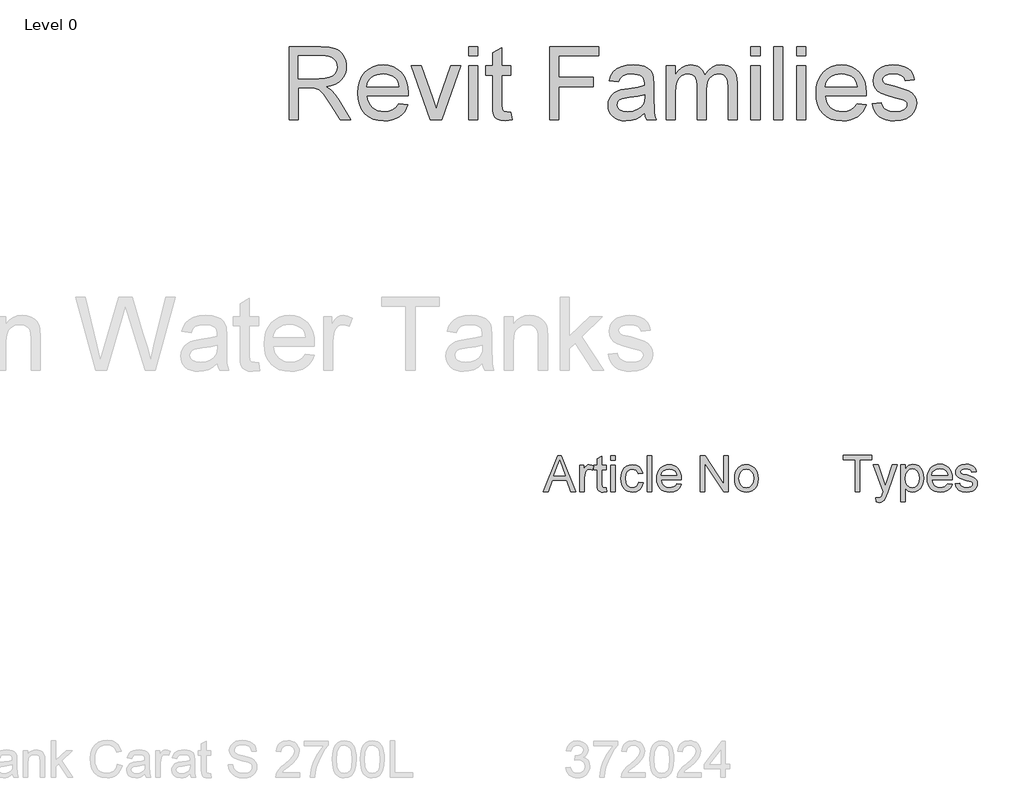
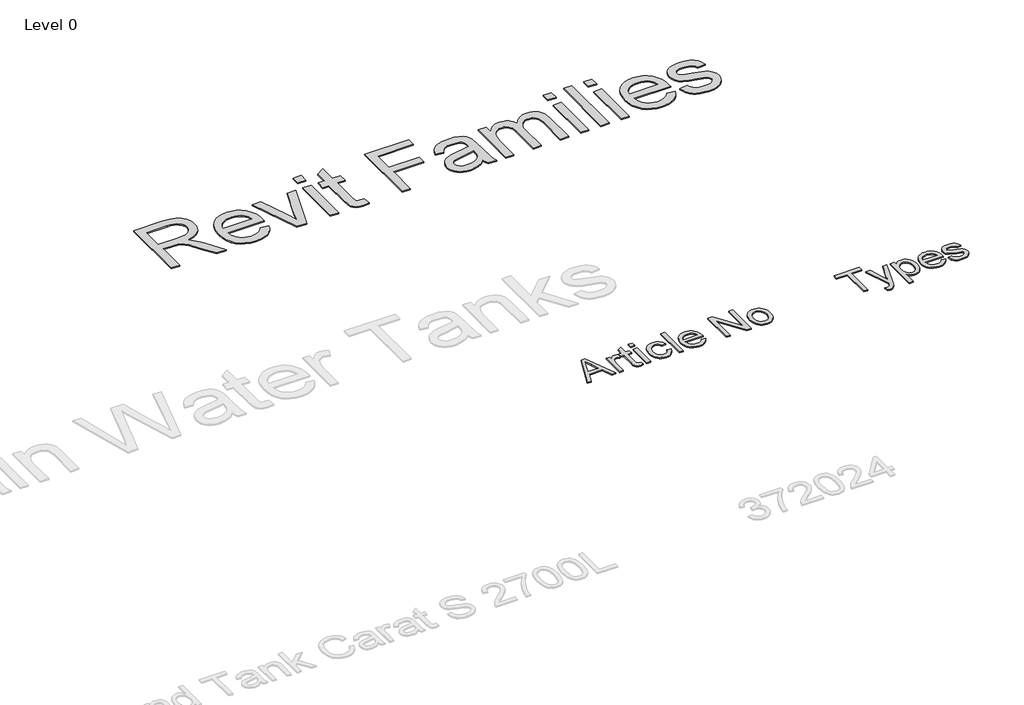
# One storey, part 20 of 20: 3 proxies.
"""IFC4 building model written with IfcOpenShell, lengths in millimetres."""

from ifc_helpers import new_model, si_unit, origin, origin_with_axes, place, context, project, spatial, polyline, outline, extrude, element, save

model = new_model("IFC4")

# Units and contexts
model_context = context("Model", 3, world=origin())
ifc_project = project(units=[si_unit("LENGTHUNIT", "METRE", prefix="MILLI")], contexts=[model_context])

# Site, building, storey
site = spatial("IfcSite", under=ifc_project)
building = spatial("IfcBuilding", under=site)
storey = spatial("IfcBuildingStorey", under=building, Name="Level 0", Elevation=0.0)

# Proxies
placement = place(None, origin())
element("IfcBuildingElementProxy", 1, Name="300mm Arial", ObjectType="300mm Arial", at=placement, inside=storey, context=model_context, shape_type="SweptSolid", body=[
    extrude(outline(polyline([(-3961.8157412, 11653.8274553), (-3961.8157412, 11917.5252695), (-4060.7024215, 11917.5252695), (-4060.7024215, 11955.1963858), (-3825.2579445, 11955.1963858), (-3825.2579445, 11917.5252695), (-3924.1446249, 11917.5252695), (-3924.1446249, 11653.8274553), (-3961.8157412, 11653.8274553)])), origin_with_axes(), (0.0, 0.0, 1.0), 10.0),
    extrude(outline(polyline([(-3787.5868282, 11569.0674436), (-3792.2957178, 11605.3406084), (-3773.165854, 11602.0296704), (-3755.2867891, 11606.186737), (-3744.3239056, 11617.7750198), (-3734.0232097, 11645.5133222), (-3731.0801538, 11654.6367957), (-3811.1312759, 11875.1452636), (-3771.4000205, 11875.1452636), (-3728.9464382, 11752.2726772), (-3714.157582, 11703.1236427), (-3699.3687258, 11746.5337181), (-3655.7379212, 11875.1452636), (-3616.3009713, 11875.1452636), (-3693.3354611, 11648.5299546), (-3713.3482416, 11599.38092), (-3723.5937552, 11583.690753), (-3735.2004321, 11572.81984), (-3748.6833073, 11566.4738756), (-3764.5574153, 11564.3585541), (-3787.5868282, 11569.0674436)])), origin_with_axes(), (0.0, 0.0, 1.0), 10.0),
    extrude(outline(polyline([(-3585.1045781, 11569.0674436), (-3585.1045781, 11875.1452636), (-3547.4334618, 11875.1452636), (-3547.4334618, 11838.2099113), (-3535.1462032, 11856.4292671), (-3521.3874165, 11869.4430927), (-3505.3477615, 11877.2513881), (-3486.2178978, 11879.8541532), (-3460.7420696, 11876.2121214), (-3438.4668148, 11865.2860262), (-3420.3302325, 11847.738055), (-3407.2704216, 11824.2303955), (-3399.3793528, 11796.473699), (-3396.7489966, 11766.1786167), (-3399.7196437, 11733.9613509), (-3408.631585, 11705.1469937), (-3423.199712, 11681.1978758), (-3443.1389162, 11663.5763282), (-3466.3614671, 11652.7330064), (-3490.7796345, 11649.1185658), (-3508.0976795, 11651.5373899), (-3523.5579203, 11658.7938623), (-3536.7924751, 11669.7475487), (-3547.4334618, 11683.2580149), (-3547.4334618, 11569.0674436), (-3585.1045781, 11569.0674436)]), holes=[polyline([(-3547.4334618, 11762.7205259), (-3543.3591687, 11728.9489587), (-3531.1362894, 11705.3309347), (-3513.1008746, 11691.4249952), (-3491.5889749, 11686.7896821), (-3469.7275874, 11691.5905421), (-3451.2323201, 11705.9931223), (-3438.6231647, 11730.475669), (-3434.4201129, 11765.5164291), (-3438.5219971, 11799.1040552), (-3450.8276499, 11823.0531731), (-3468.8354735, 11837.4005709), (-3490.0438705, 11842.1830369), (-3511.335041, 11837.0970683), (-3530.0326434, 11821.8391625), (-3543.0832572, 11796.8875662), (-3547.4334618, 11762.7205259)])]), origin_with_axes(), (0.0, 0.0, 1.0), 10.0),
    extrude(outline(polyline([(-3199.4170944, 11719.7519089), (-3162.481742, 11715.0430193), (-3175.7898732, 11687.2127464), (-3197.0258614, 11666.4090196), (-3225.71146, 11653.4411792), (-3261.3684223, 11649.1185658), (-3284.7427246, 11650.9832677), (-3305.5694441, 11656.5773732), (-3323.8485807, 11665.9008826), (-3339.5801345, 11678.9537956), (-3352.2306766, 11695.3728289), (-3361.2667781, 11714.794699), (-3366.688439, 11737.2194059), (-3368.4956593, 11762.6469495), (-3366.6700449, 11788.9367166), (-3361.1932017, 11812.1086838), (-3352.0651297, 11832.162851), (-3339.2858289, 11849.0992184), (-3323.5956618, 11862.5545023), (-3305.734991, 11872.1654195), (-3285.7038163, 11877.9319697), (-3263.5021379, 11879.8541532), (-3242.0155301, 11877.9365683), (-3222.584463, 11872.1838136), (-3205.2089365, 11862.5958891), (-3189.8889507, 11849.1727948), (-3177.3832621, 11832.2732156), (-3168.4506274, 11812.2558366), (-3163.0910466, 11789.1206576), (-3161.3045197, 11762.8676787), (-3161.5252489, 11752.7141356), (-3330.824543, 11752.7141356), (-3324.3038347, 11724.5159807), (-3309.1562935, 11703.7858303), (-3287.294906, 11691.0387191), (-3260.6326584, 11686.7896821), (-3240.5830896, 11688.7578508), (-3223.697306, 11694.6623568), (-3209.9753076, 11704.8710822), (-3199.4170944, 11719.7519089)]), holes=[polyline([(-3330.824543, 11790.3852519), (-3198.975636, 11790.3852519), (-3204.0708016, 11810.2876679), (-3214.0587978, 11824.5247011), (-3236.0213529, 11837.7684529), (-3263.6492907, 11842.1830369), (-3289.0423454, 11838.6605668), (-3310.0392103, 11828.0931565), (-3324.6349285, 11811.6212401), (-3330.824543, 11790.3852519)])]), origin_with_axes(), (0.0, 0.0, 1.0), 10.0),
    extrude(outline(polyline([(-3137.760072, 11719.7519089), (-3100.0889557, 11724.4607984), (-3094.1476614, 11708.347567), (-3082.6513491, 11696.5017668), (-3065.5264422, 11689.2177033), (-3042.6993644, 11686.7896821), (-3020.1481981, 11689.0153682), (-3004.2924841, 11695.6924264), (-2994.9114932, 11705.3677229), (-2991.7844963, 11716.5881237), (-2994.9298873, 11726.1898438), (-3004.3660605, 11733.5106955), (-3043.1408228, 11744.2528497), (-3099.8682265, 11762.6837377), (-3114.2248213, 11771.9451669), (-3124.6266847, 11784.2048344), (-3130.945058, 11798.6809909), (-3133.0511824, 11814.5918872), (-3131.3589252, 11829.1876054), (-3126.2821537, 11842.6612835), (-3118.2807203, 11854.4794926), (-3107.8144776, 11864.1088038), (-3083.8653597, 11875.2556282), (-3051.4549559, 11879.8541532), (-3026.9356209, 11878.0055461), (-3005.6168593, 11872.4597251), (-2988.4735583, 11863.7593159), (-2976.4806053, 11852.4469445), (-2968.5343542, 11837.6856795), (-2963.531159, 11818.6385892), (-3001.2022754, 11813.9296996), (-3005.9571501, 11825.7846969), (-3015.3657322, 11834.7150324), (-3029.5199919, 11840.3160357), (-3048.5118999, 11842.1830369), (-3070.1433612, 11840.3988092), (-3084.5643355, 11835.0461262), (-3092.6761335, 11827.3206043), (-3095.3800661, 11818.41786), (-3090.8919058, 11807.4549765), (-3076.8388136, 11799.1408434), (-3044.3916216, 11791.1210159), (-2989.0989577, 11773.3891038), (-2974.4940425, 11764.9094238), (-2963.4207944, 11753.3027468), (-2956.4402336, 11738.5322847), (-2954.11338, 11720.5612493), (-2956.8449038, 11701.9832085), (-2965.0394752, 11684.5088137), (-2978.3843946, 11669.5084254), (-2996.5669622, 11658.3524039), (-3018.5295173, 11651.4270253), (-3043.2143992, 11649.1185658), (-3081.1982152, 11653.5699379), (-3108.9181235, 11666.9240544), (-3127.4225879, 11689.0337623), (-3137.760072, 11719.7519089)])), origin_with_axes(), (0.0, 0.0, 1.0), 10.0),
])
element("IfcBuildingElementProxy", 2, Name="300mm Arial", ObjectType="300mm Arial", at=placement, inside=storey, context=model_context, shape_type="SweptSolid", body=[
    extrude(outline(polyline([(-6532.2115467, 11653.8274553), (-6414.3028928, 11949.2120707), (-6382.8605852, 11949.2120707), (-6264.9519313, 11653.8274553), (-6303.9663544, 11653.8274553), (-6337.7884698, 11746.1351476), (-6459.4471236, 11746.1351476), (-6493.1971236, 11653.8274553), (-6532.2115467, 11653.8274553)]), holes=[polyline([(-6445.8894313, 11783.0582246), (-6351.2740467, 11783.0582246), (-6377.8846236, 11855.6784169), (-6398.581739, 11912.2889938), (-6416.9711621, 11862.0245707), (-6445.8894313, 11783.0582246)])]), origin_with_axes(), (0.0, 0.0, 1.0), 10.0),
    extrude(outline(polyline([(-6230.1202005, 11653.8274553), (-6230.1202005, 11870.7505323), (-6197.8125082, 11870.7505323), (-6197.8125082, 11838.6591861), (-6185.8774121, 11857.2649553), (-6174.8798159, 11868.2264938), (-6163.8461621, 11873.5810611), (-6151.8028928, 11875.3659169), (-6133.4134698, 11872.5173592), (-6114.7355852, 11863.9716861), (-6127.0673159, 11830.8707246), (-6140.0480852, 11836.5498111), (-6153.0288544, 11838.44284), (-6164.0534938, 11836.6219265), (-6173.9062582, 11831.1591861), (-6181.8659938, 11822.4692823), (-6187.2115467, 11810.9668784), (-6191.7007294, 11790.3418784), (-6193.1971236, 11767.8418784), (-6193.1971236, 11653.8274553), (-6230.1202005, 11653.8274553)])), origin_with_axes(), (0.0, 0.0, 1.0), 10.0),
    extrude(outline(polyline([(-6013.1971236, 11684.6207246), (-6008.581739, 11652.7457246), (-6036.2019313, 11649.2120707), (-6053.9242871, 11650.7445226), (-6067.1394313, 11655.3418784), (-6076.4783736, 11662.427215), (-6082.5721236, 11671.4236092), (-6085.925489, 11686.8743303), (-6087.0432775, 11713.3226476), (-6087.0432775, 11833.8274553), (-6114.7355852, 11833.8274553), (-6114.7355852, 11870.7505323), (-6087.0432775, 11870.7505323), (-6087.0432775, 11923.4668784), (-6050.1202005, 11945.1736092), (-6050.1202005, 11870.7505323), (-6013.1971236, 11870.7505323), (-6013.1971236, 11833.8274553), (-6050.1202005, 11833.8274553), (-6050.1202005, 11714.4043784), (-6048.1730852, 11695.3659169), (-6041.862989, 11688.6231284), (-6029.2788544, 11686.1351476), (-6013.1971236, 11684.6207246)])), origin_with_axes(), (0.0, 0.0, 1.0), 10.0),
    extrude(outline(polyline([(-5976.2740467, 11912.2889938), (-5976.2740467, 11949.2120707), (-5939.3509698, 11949.2120707), (-5939.3509698, 11912.2889938), (-5976.2740467, 11912.2889938)])), origin_with_axes(), (0.0, 0.0, 1.0), 10.0),
    extrude(outline(polyline([(-5976.2740467, 11653.8274553), (-5976.2740467, 11870.7505323), (-5939.3509698, 11870.7505323), (-5939.3509698, 11653.8274553), (-5976.2740467, 11653.8274553)])), origin_with_axes(), (0.0, 0.0, 1.0), 10.0),
    extrude(outline(polyline([(-5745.5048159, 11732.2889938), (-5708.581739, 11727.6736092), (-5718.8762102, 11694.8340659), (-5738.2211621, 11670.0173592), (-5764.7956813, 11654.4133928), (-5796.7788544, 11649.2120707), (-5817.4872378, 11651.0262234), (-5836.0546957, 11656.4686813), (-5852.4812282, 11665.5394445), (-5866.7668352, 11678.238513), (-5878.3300864, 11694.3270046), (-5886.5895515, 11713.5660371), (-5891.5452306, 11735.9556104), (-5893.1971236, 11761.4957246), (-5890.3756092, 11794.3532967), (-5881.9110659, 11822.8298592), (-5867.6682775, 11845.8256525), (-5847.5120275, 11862.2409169), (-5823.3984457, 11872.0846669), (-5797.2836621, 11875.3659169), (-5766.0847438, 11870.8587053), (-5741.1418352, 11857.3370707), (-5723.2482053, 11835.5221669), (-5713.1971236, 11806.1351476), (-5750.1202005, 11801.519763), (-5756.8179169, 11817.6285371), (-5767.2476044, 11829.176013), (-5780.83234, 11836.1261332), (-5796.9952005, 11838.44284), (-5820.8563784, 11833.8815419), (-5839.7956813, 11820.1976476), (-5852.1544553, 11796.6519746), (-5856.2740467, 11762.50534), (-5852.2445996, 11727.8989698), (-5840.1562582, 11704.2721669), (-5821.5595034, 11690.6694025), (-5798.0048159, 11686.1351476), (-5778.8852246, 11688.9656765), (-5763.2091428, 11697.457263), (-5751.8058977, 11711.8262534), (-5745.5048159, 11732.2889938)])), origin_with_axes(), (0.0, 0.0, 1.0), 10.0),
    extrude(outline(polyline([(-5676.2740467, 11653.8274553), (-5676.2740467, 11949.2120707), (-5639.3509698, 11949.2120707), (-5639.3509698, 11653.8274553), (-5676.2740467, 11653.8274553)])), origin_with_axes(), (0.0, 0.0, 1.0), 10.0),
    extrude(outline(polyline([(-5432.0913544, 11718.44284), (-5395.8894313, 11713.8274553), (-5408.9333015, 11686.5498111), (-5429.7476044, 11666.1591861), (-5457.86359, 11653.4488496), (-5492.8125082, 11649.2120707), (-5515.7226645, 11651.039745), (-5536.1358255, 11656.5227678), (-5554.0519914, 11665.6611392), (-5569.4711621, 11678.4548592), (-5581.870501, 11694.547858), (-5590.7271717, 11713.5840659), (-5596.0411741, 11735.563483), (-5597.8125082, 11760.4861092), (-5596.0231453, 11786.2538375), (-5590.6550563, 11808.9656765), (-5581.7082414, 11828.621626), (-5569.1827005, 11845.2216861), (-5553.8040948, 11858.4097871), (-5536.2980852, 11867.8298592), (-5516.6646717, 11873.4819025), (-5494.9038544, 11875.3659169), (-5473.8439085, 11873.4864097), (-5454.7986861, 11867.847888), (-5437.7681873, 11858.450352), (-5422.7524121, 11845.2938015), (-5410.4950503, 11828.7297991), (-5401.7397919, 11809.1099073), (-5396.4866368, 11786.434126), (-5394.7355852, 11760.7024553), (-5394.9519313, 11750.7505323), (-5560.8894313, 11750.7505323), (-5554.4982053, 11723.1123111), (-5539.6514505, 11702.7938015), (-5518.2241669, 11690.2998111), (-5492.0913544, 11686.1351476), (-5472.4399121, 11688.0642342), (-5455.8894313, 11693.8514938), (-5442.4399121, 11703.8575034), (-5432.0913544, 11718.44284)]), holes=[polyline([(-5560.8894313, 11787.6736092), (-5431.6586621, 11787.6736092), (-5436.6526525, 11807.1808207), (-5446.4423159, 11821.1351476), (-5467.9687582, 11834.1159169), (-5495.0480852, 11838.44284), (-5519.9369073, 11834.9903159), (-5540.5168352, 11824.6327438), (-5554.8227246, 11808.4879121), (-5560.8894313, 11787.6736092)])]), origin_with_axes(), (0.0, 0.0, 1.0), 10.0),
    extrude(outline(polyline([(-5237.8125082, 11653.8274553), (-5237.8125082, 11949.2120707), (-5198.2932775, 11949.2120707), (-5043.9663544, 11715.1976476), (-5043.9663544, 11949.2120707), (-5007.0432775, 11949.2120707), (-5007.0432775, 11653.8274553), (-5046.5625082, 11653.8274553), (-5200.8894313, 11887.9139938), (-5200.8894313, 11653.8274553), (-5237.8125082, 11653.8274553)])), origin_with_axes(), (0.0, 0.0, 1.0), 10.0),
    extrude(outline(polyline([(-4956.2740467, 11762.2889938), (-4954.277352, 11790.3824433), (-4948.2872678, 11814.5906765), (-4938.3037943, 11834.9136933), (-4924.3269313, 11851.3514938), (-4910.2554169, 11861.8578039), (-4894.7235659, 11869.3623111), (-4877.7313784, 11873.8650154), (-4859.2788544, 11875.3659169), (-4838.9085118, 11873.5382426), (-4820.4897919, 11868.0552198), (-4804.0226945, 11858.9168484), (-4789.5072198, 11846.1231284), (-4777.6600142, 11830.1067522), (-4769.1977246, 11811.3004121), (-4764.1203508, 11789.704108), (-4762.4278928, 11765.31784), (-4765.4206813, 11728.0161573), (-4774.3990467, 11699.6207246), (-4789.1015707, 11678.3557005), (-4809.2668352, 11662.4452438), (-4833.2181573, 11652.520364), (-4859.2788544, 11649.2120707), (-4879.9466729, 11651.0329842), (-4898.5366669, 11656.4957246), (-4915.0488364, 11665.6002919), (-4929.4831813, 11678.3466861), (-4941.2041849, 11694.5185611), (-4949.5763303, 11713.8995707), (-4954.5996176, 11736.489715), (-4956.2740467, 11762.2889938)]), holes=[polyline([(-4919.3509698, 11762.3611092), (-4915.0781332, 11728.9446428), (-4902.2596236, 11705.1375515), (-4882.9687582, 11690.8857486), (-4859.2788544, 11686.1351476), (-4835.6971236, 11690.9127919), (-4816.4423159, 11705.2457246), (-4803.6238063, 11729.3683207), (-4799.3509698, 11763.5149553), (-4803.6508496, 11795.957864), (-4816.550489, 11819.4404361), (-4835.83234, 11833.692239), (-4859.2788544, 11838.44284), (-4882.9687582, 11833.7102678), (-4902.2596236, 11819.5125515), (-4915.0781332, 11795.7595467), (-4919.3509698, 11762.3611092)])]), origin_with_axes(), (0.0, 0.0, 1.0), 10.0),
])
element("IfcBuildingElementProxy", 3, Name="600mm Arial", ObjectType="600mm Arial", at=placement, inside=storey, context=model_context, shape_type="SweptSolid", body=[
    extrude(outline(polyline([(-8626.1144326, 14719.3449091), (-8626.1144326, 15322.08277), (-8366.389744, 15322.08277), (-8296.5841354, 15318.017674), (-8245.798026, 15305.8223859), (-8226.1991127, 15296.1286953), (-8208.6787327, 15283.3080077), (-8193.2368859, 15267.3603233), (-8179.8735725, 15248.2856418), (-8169.0900315, 15227.1094345), (-8161.3875022, 15204.8571723), (-8156.7659846, 15181.5288553), (-8155.2254788, 15157.1244834), (-8157.7776601, 15126.1672135), (-8165.4342042, 15097.7483294), (-8178.1951109, 15071.867831), (-8196.0603802, 15048.5257184), (-8219.2599386, 15028.4669526), (-8248.0237121, 15012.4364947), (-8282.3517007, 15000.4343446), (-8322.2439046, 14992.4605024), (-8297.4118699, 14976.2369064), (-8279.4224404, 14960.2340396), (-8248.557141, 14923.6297811), (-8218.3540292, 14882.684515), (-8117.8486681, 14719.3449091), (-8205.4045829, 14719.3449091), (-8283.8370243, 14844.2776347), (-8340.4908516, 14926.9775072), (-8361.5520958, 14951.092172), (-8380.2956834, 14966.0465751), (-8416.1273898, 14980.3939729), (-8459.8317708, 14983.0427233), (-8550.7722, 14983.0427233), (-8550.7722, 14719.3449091), (-8626.1144326, 14719.3449091)]), holes=[polyline([(-8550.7722, 15058.3849559), (-8382.1350934, 15058.3849559), (-8333.7034287, 15061.0521004), (-8296.1242829, 15069.0535338), (-8267.8341575, 15082.922685), (-8247.269554, 15103.1929829), (-8234.743172, 15127.7123179), (-8230.5677114, 15154.3285802), (-8232.5588727, 15173.5963997), (-8238.5323566, 15191.0799916), (-8248.4881631, 15206.7793557), (-8262.4262922, 15220.6944922), (-8280.6686406, 15232.089637), (-8303.5371051, 15240.2290261), (-8331.0316858, 15245.1126596), (-8363.1523825, 15246.7405374), (-8550.7722, 15246.7405374), (-8550.7722, 15058.3849559)])]), origin_with_axes(), (0.0, 0.0, 1.0), 10.0),
    extrude(outline(polyline([(-7722.8905581, 14851.1938162), (-7649.0198534, 14841.7760371), (-7660.3460203, 14812.1891277), (-7675.6361158, 14786.1154913), (-7694.8901397, 14763.5551279), (-7718.1080921, 14744.5080376), (-7745.0508497, 14729.3788906), (-7775.4792893, 14718.572357), (-7809.3934107, 14712.0884368), (-7846.793214, 14709.9271301), (-7893.5418186, 14713.6565338), (-7935.1952575, 14724.844745), (-7971.7535307, 14743.4917636), (-8003.2166384, 14769.5975897), (-8028.5177226, 14802.4356563), (-8046.5899256, 14841.2793964), (-8057.4332474, 14886.1288102), (-8061.047688, 14936.9838975), (-8057.3964592, 14989.5634316), (-8046.4427728, 15035.907366), (-8028.1866288, 15076.0157005), (-8002.6280272, 15109.8884352), (-7971.247693, 15136.7990032), (-7935.5263513, 15156.0208374), (-7895.464002, 15167.553938), (-7851.0606452, 15171.3983048), (-7808.0874296, 15167.563135), (-7769.2252953, 15156.0576256), (-7734.4742424, 15136.8817766), (-7703.8342707, 15110.035588), (-7678.8228936, 15076.2364297), (-7660.9576242, 15036.2016716), (-7650.2384625, 14989.9313136), (-7646.6654087, 14937.4253559), (-7647.106867, 14917.1182697), (-7985.7054554, 14917.1182697), (-7981.3414552, 14887.0531137), (-7972.6640387, 14860.7219599), (-7959.6732057, 14838.1248083), (-7942.3689564, 14819.261659), (-7921.7077838, 14804.3900294), (-7898.6461812, 14793.7674368), (-7873.1841487, 14787.3938812), (-7845.321686, 14785.2693627), (-7805.2225486, 14789.2057), (-7771.4509814, 14801.0147121), (-7744.0069846, 14821.4321628), (-7722.8905581, 14851.1938162)]), holes=[polyline([(-7985.7054554, 14992.4605024), (-7722.0076413, 14992.4605024), (-7732.1979725, 15032.2653342), (-7740.9627611, 15047.9187131), (-7752.1739649, 15060.7394007), (-7772.7201743, 15076.1904445), (-7796.0990751, 15087.2269043), (-7822.3106672, 15093.8487802), (-7851.3549508, 15096.0560722), (-7877.8470529, 15094.2948372), (-7902.1410602, 15089.011132), (-7924.2369725, 15080.2049567), (-7944.13479, 15067.8763114), (-7960.832034, 15052.595413), (-7973.3262263, 15034.9324787), (-7981.6173667, 15014.8875085), (-7985.7054554, 14992.4605024)])]), origin_with_axes(), (0.0, 0.0, 1.0), 10.0),
    extrude(outline(polyline([(-7462.7244111, 14719.3449091), (-7618.4120714, 15161.9805257), (-7538.6552549, 15161.9805257), (-7444.3303113, 14896.8111836), (-7415.9298213, 14807.636588), (-7388.1179424, 14891.8079885), (-7293.2043877, 15161.9805257), (-7213.4475711, 15161.9805257), (-7367.2222451, 14719.3449091), (-7462.7244111, 14719.3449091)])), origin_with_axes(), (0.0, 0.0, 1.0), 10.0),
    extrude(outline(polyline([(-7147.5231176, 15246.7405374), (-7147.5231176, 15322.08277), (-7072.180885, 15322.08277), (-7072.180885, 15246.7405374), (-7147.5231176, 15246.7405374)])), origin_with_axes(), (0.0, 0.0, 1.0), 10.0),
    extrude(outline(polyline([(-7147.5231176, 14719.3449091), (-7147.5231176, 15161.9805257), (-7072.180885, 15161.9805257), (-7072.180885, 14719.3449091), (-7147.5231176, 14719.3449091)])), origin_with_axes(), (0.0, 0.0, 1.0), 10.0),
    extrude(outline(polyline([(-6799.0652918, 14782.1791539), (-6789.6475127, 14717.1376172), (-6846.0070343, 14709.9271301), (-6882.1698345, 14713.054127), (-6909.1355847, 14722.4351179), (-6928.1918721, 14736.8928803), (-6940.6262835, 14755.2501919), (-6947.4688886, 14786.7776789), (-6949.749757, 14840.7459676), (-6949.749757, 15086.6382931), (-7006.2564314, 15086.6382931), (-7006.2564314, 15161.9805257), (-6949.749757, 15161.9805257), (-6949.749757, 15269.5492211), (-6874.4075244, 15313.8422133), (-6874.4075244, 15161.9805257), (-6799.0652918, 15161.9805257), (-6799.0652918, 15086.6382931), (-6874.4075244, 15086.6382931), (-6874.4075244, 14842.9532595), (-6870.4343988, 14804.1049208), (-6857.558529, 14790.3461342), (-6846.687616, 14786.5385556), (-6831.8803657, 14785.2693627), (-6799.0652918, 14782.1791539)])), origin_with_axes(), (0.0, 0.0, 1.0), 10.0),
    extrude(outline(polyline([(-6478.8608032, 14719.3449091), (-6478.8608032, 15322.08277), (-6073.8963029, 15322.08277), (-6073.8963029, 15246.7405374), (-6403.5185706, 15246.7405374), (-6403.5185706, 15067.802735), (-6120.9851983, 15067.802735), (-6120.9851983, 14992.4605024), (-6403.5185706, 14992.4605024), (-6403.5185706, 14719.3449091), (-6478.8608032, 14719.3449091)])), origin_with_axes(), (0.0, 0.0, 1.0), 10.0),
    extrude(outline(polyline([(-5697.1851398, 14775.8515836), (-5733.182393, 14744.9862842), (-5770.2465041, 14724.7895627), (-5809.2236014, 14713.6427382), (-5850.9598138, 14709.9271301), (-5884.5060532, 14712.1620132), (-5913.9228173, 14718.8666625), (-5939.2101059, 14730.0410782), (-5960.3679192, 14745.68526), (-5977.0743603, 14764.8059267), (-5989.0075325, 14786.4097969), (-5996.1674358, 14810.4968705), (-5998.5540703, 14837.0671476), (-5994.9488267, 14868.300329), (-5984.133096, 14896.6640308), (-5967.4496476, 14920.9442425), (-5946.2412505, 14939.9269535), (-5921.3172454, 14954.2743513), (-5893.4869724, 14964.6486235), (-5828.2982829, 14975.979389), (-5751.2637931, 14987.8987656), (-5697.6265982, 15001.8782814), (-5697.1851398, 15018.6537004), (-5702.3722759, 15052.2781148), (-5708.8561961, 15064.7309203), (-5717.9336843, 15074.2774581), (-5733.6238514, 15083.8056018), (-5752.7353211, 15090.6114187), (-5801.222168, 15096.0560722), (-5846.1037715, 15092.4324346), (-5877.4473174, 15081.5615216), (-5898.8212614, 15061.4567706), (-5913.7940586, 15030.1316187), (-5989.1362912, 15039.5493977), (-5976.0580863, 15080.7521812), (-5956.5419464, 15113.1257968), (-5928.7668558, 15137.8842551), (-5890.9117985, 15156.2415666), (-5844.6138494, 15167.6091203), (-5791.5100834, 15171.3983048), (-5740.5768211, 15168.0505787), (-5700.2017722, 15158.0074002), (-5669.7595371, 15142.9058443), (-5648.6247164, 15124.3829858), (-5634.6084124, 15101.4823316), (-5625.5217272, 15073.2473885), (-5621.8429072, 15007.322935), (-5621.8429072, 14913.5866026), (-5618.0169344, 14782.6941887), (-5612.3515517, 14750.3389672), (-5603.007349, 14719.3449091), (-5678.3495817, 14719.3449091), (-5690.4161111, 14745.5381072), (-5697.1851398, 14775.8515836)]), holes=[polyline([(-5697.1851398, 14926.5360488), (-5747.8057023, 14913.9912728), (-5818.733351, 14903.4330595), (-5883.5541586, 14891.2193773), (-5900.421548, 14882.868456), (-5912.9111418, 14871.3537495), (-5920.6366637, 14857.5581747), (-5923.2118376, 14842.3646483), (-5917.6016372, 14819.9606348), (-5900.7710359, 14801.6033233), (-5873.0879158, 14789.3528528), (-5834.9201588, 14785.2693627), (-5794.4531393, 14789.7759171), (-5758.6950094, 14803.2955804), (-5729.7059082, 14823.2163905), (-5709.5459748, 14846.9263851), (-5700.6064424, 14871.3537495), (-5697.6265982, 14905.1988931), (-5697.1851398, 14926.5360488)])]), origin_with_axes(), (0.0, 0.0, 1.0), 10.0),
    extrude(outline(polyline([(-5518.2473374, 14719.3449091), (-5518.2473374, 15161.9805257), (-5442.9051047, 15161.9805257), (-5442.9051047, 15089.1398907), (-5420.2435738, 15122.5987582), (-5391.1073198, 15148.8103503), (-5356.4896241, 15165.7513162), (-5317.383768, 15171.3983048), (-5275.4820087, 15165.6409516), (-5257.648929, 15158.4442601), (-5241.8943826, 15148.3688919), (-5216.8048305, 15120.72256), (-5200.3972935, 15083.84239), (-5172.9349026, 15122.1481027), (-5141.6097507, 15149.5093261), (-5106.4218379, 15165.9260601), (-5067.3711641, 15171.3983048), (-5037.209439, 15169.122035), (-5010.7357309, 15162.2932254), (-4987.9500398, 15150.9118762), (-4968.8523658, 15134.9779873), (-4953.7554084, 15114.3076177), (-4942.9718674, 15088.7168264), (-4936.5017428, 15058.2056134), (-4934.3450346, 15022.7739788), (-4934.3450346, 14719.3449091), (-5009.6872672, 14719.3449091), (-5009.6872672, 14990.4003632), (-5011.4347067, 15027.979509), (-5016.6770251, 15053.3081844), (-5026.4994744, 15070.6538204), (-5041.9873064, 15084.2838484), (-5061.9081164, 15093.1130162), (-5085.0294998, 15096.0560722), (-5106.3804511, 15094.170677), (-5125.8460072, 15088.5144913), (-5143.426168, 15079.0875152), (-5159.1209337, 15065.8897486), (-5172.0289932, 15048.5349155), (-5181.2490357, 15026.6367397), (-5186.7810612, 15000.1952213), (-5188.6250697, 14969.2103603), (-5188.6250697, 14719.3449091), (-5263.9673023, 14719.3449091), (-5263.9673023, 14998.7880727), (-5268.3267039, 15041.3888077), (-5273.775956, 15058.1090444), (-5281.4049089, 15071.7758605), (-5291.5170652, 15082.3984531), (-5304.4159277, 15089.9860193), (-5320.1014962, 15094.538559), (-5338.5737709, 15096.0560722), (-5367.5996603, 15092.0093703), (-5394.3446814, 15079.8692644), (-5416.4176011, 15059.9300603), (-5431.4271865, 15032.4860634), (-5440.0356252, 14994.4102769), (-5442.9051047, 14942.5757038), (-5442.9051047, 14719.3449091), (-5518.2473374, 14719.3449091)])), origin_with_axes(), (0.0, 0.0, 1.0), 10.0),
    extrude(outline(polyline([(-4821.3316857, 15246.7405374), (-4821.3316857, 15322.08277), (-4745.9894531, 15322.08277), (-4745.9894531, 15246.7405374), (-4821.3316857, 15246.7405374)])), origin_with_axes(), (0.0, 0.0, 1.0), 10.0),
    extrude(outline(polyline([(-4821.3316857, 14719.3449091), (-4821.3316857, 15161.9805257), (-4745.9894531, 15161.9805257), (-4745.9894531, 14719.3449091), (-4821.3316857, 14719.3449091)])), origin_with_axes(), (0.0, 0.0, 1.0), 10.0),
    extrude(outline(polyline([(-4632.9761042, 14719.3449091), (-4632.9761042, 15322.08277), (-4557.6338716, 15322.08277), (-4557.6338716, 14719.3449091), (-4632.9761042, 14719.3449091)])), origin_with_axes(), (0.0, 0.0, 1.0), 10.0),
    extrude(outline(polyline([(-4444.6205226, 15246.7405374), (-4444.6205226, 15322.08277), (-4369.27829, 15322.08277), (-4369.27829, 15246.7405374), (-4444.6205226, 15246.7405374)])), origin_with_axes(), (0.0, 0.0, 1.0), 10.0),
    extrude(outline(polyline([(-4444.6205226, 14719.3449091), (-4444.6205226, 15161.9805257), (-4369.27829, 15161.9805257), (-4369.27829, 14719.3449091), (-4444.6205226, 14719.3449091)])), origin_with_axes(), (0.0, 0.0, 1.0), 10.0),
    extrude(outline(polyline([(-3946.3611484, 14851.1938162), (-3872.4904437, 14841.7760371), (-3883.8166107, 14812.1891277), (-3899.1067061, 14786.1154913), (-3918.36073, 14763.5551279), (-3941.5786824, 14744.5080376), (-3968.5214401, 14729.3788906), (-3998.9498796, 14718.572357), (-4032.864001, 14712.0884368), (-4070.2638043, 14709.9271301), (-4117.0124089, 14713.6565338), (-4158.6658478, 14724.844745), (-4195.2241211, 14743.4917636), (-4226.6872287, 14769.5975897), (-4251.9883129, 14802.4356563), (-4270.0605159, 14841.2793964), (-4280.9038377, 14886.1288102), (-4284.5182783, 14936.9838975), (-4280.8670495, 14989.5634316), (-4269.9133631, 15035.907366), (-4251.6572191, 15076.0157005), (-4226.0986175, 15109.8884352), (-4194.7182833, 15136.7990032), (-4158.9969416, 15156.0208374), (-4118.9345923, 15167.553938), (-4074.5312355, 15171.3983048), (-4031.5580199, 15167.563135), (-3992.6958857, 15156.0576256), (-3957.9448327, 15136.8817766), (-3927.304861, 15110.035588), (-3902.2934839, 15076.2364297), (-3884.4282145, 15036.2016716), (-3873.7090528, 14989.9313136), (-3870.135999, 14937.4253559), (-3870.5774574, 14917.1182697), (-4209.1760457, 14917.1182697), (-4204.8120456, 14887.0531137), (-4196.134629, 14860.7219599), (-4183.143796, 14838.1248083), (-4165.8395467, 14819.261659), (-4145.1783741, 14804.3900294), (-4122.1167716, 14793.7674368), (-4096.654739, 14787.3938812), (-4068.7922764, 14785.2693627), (-4028.6931389, 14789.2057), (-3994.9215717, 14801.0147121), (-3967.4775749, 14821.4321628), (-3946.3611484, 14851.1938162)]), holes=[polyline([(-4209.1760457, 14992.4605024), (-3945.4782316, 14992.4605024), (-3955.6685628, 15032.2653342), (-3964.4333514, 15047.9187131), (-3975.6445552, 15060.7394007), (-3996.1907646, 15076.1904445), (-4019.5696654, 15087.2269043), (-4045.7812576, 15093.8487802), (-4074.8255411, 15096.0560722), (-4101.3176433, 15094.2948372), (-4125.6116505, 15089.011132), (-4147.7075629, 15080.2049567), (-4167.6053803, 15067.8763114), (-4184.3026243, 15052.595413), (-4196.7968166, 15034.9324787), (-4205.087957, 15014.8875085), (-4209.1760457, 14992.4605024)])]), origin_with_axes(), (0.0, 0.0, 1.0), 10.0),
    extrude(outline(polyline([(-3823.0471036, 14851.1938162), (-3747.704871, 14860.6115953), (-3743.1523313, 14843.4315061), (-3735.8222825, 14828.3851325), (-3725.7147247, 14815.4724745), (-3712.8296578, 14804.693532), (-3697.1302937, 14796.1954579), (-3678.5798441, 14790.125405), (-3632.9256885, 14785.2693627), (-3587.8233559, 14789.7207348), (-3570.2937788, 14795.28495), (-3556.1119279, 14803.0748512), (-3537.3499461, 14822.4254442), (-3532.6594507, 14833.2595689), (-3531.0959522, 14844.8662459), (-3532.6686477, 14855.0381831), (-3537.3867343, 14864.069686), (-3556.2590807, 14878.7113895), (-3584.4756297, 14888.2763213), (-3633.8086053, 14900.195698), (-3702.5657502, 14920.0797198), (-3747.2634126, 14937.0574739), (-3775.9766023, 14955.5803323), (-3796.7803291, 14980.0996673), (-3809.4170757, 15009.0519803), (-3813.6293245, 15040.8737729), (-3810.2448102, 15070.0652092), (-3800.0912671, 15097.0125654), (-3784.0884003, 15120.6489836), (-3763.1559148, 15139.907606), (-3742.3521879, 15152.0293178), (-3715.257679, 15162.2012549), (-3683.9325271, 15169.0990423), (-3650.4368714, 15171.3983048), (-3601.3982015, 15167.7010908), (-3558.7606782, 15156.6094486), (-3524.4740763, 15139.2086302), (-3500.4881702, 15116.5838875), (-3484.595668, 15087.0613574), (-3474.5892778, 15048.9671768), (-3549.9315104, 15039.5493977), (-3559.4412599, 15063.2593923), (-3578.258424, 15081.1200632), (-3606.5669435, 15092.32207), (-3644.5507595, 15096.0560722), (-3687.8136822, 15092.4876169), (-3716.6556306, 15081.7822508), (-3732.8792266, 15066.331207), (-3738.2870919, 15048.5257184), (-3736.0430117, 15036.9374356), (-3729.3107712, 15026.5999515), (-3717.7960648, 15017.3661134), (-3701.2045868, 15009.9716853), (-3636.3102028, 14993.9320303), (-3525.7248751, 14958.468206), (-3496.5150447, 14941.508846), (-3474.3685486, 14918.2954921), (-3460.4074268, 14888.7545679), (-3455.7537196, 14852.812497), (-3461.2167672, 14815.6564155), (-3477.6059101, 14780.7076259), (-3504.2957489, 14750.7068492), (-3540.6608841, 14728.3948062), (-3584.5859943, 14714.5440491), (-3633.9557581, 14709.9271301), (-3674.505551, 14712.1528161), (-3709.9233901, 14718.8298743), (-3740.2092753, 14729.9583047), (-3765.3632067, 14745.5381072), (-3785.9094162, 14765.4957054), (-3802.3721355, 14789.757523), (-3814.7513646, 14818.3235599), (-3823.0471036, 14851.1938162)])), origin_with_axes(), (0.0, 0.0, 1.0), 10.0),
])

save(model, "model.ifc")
